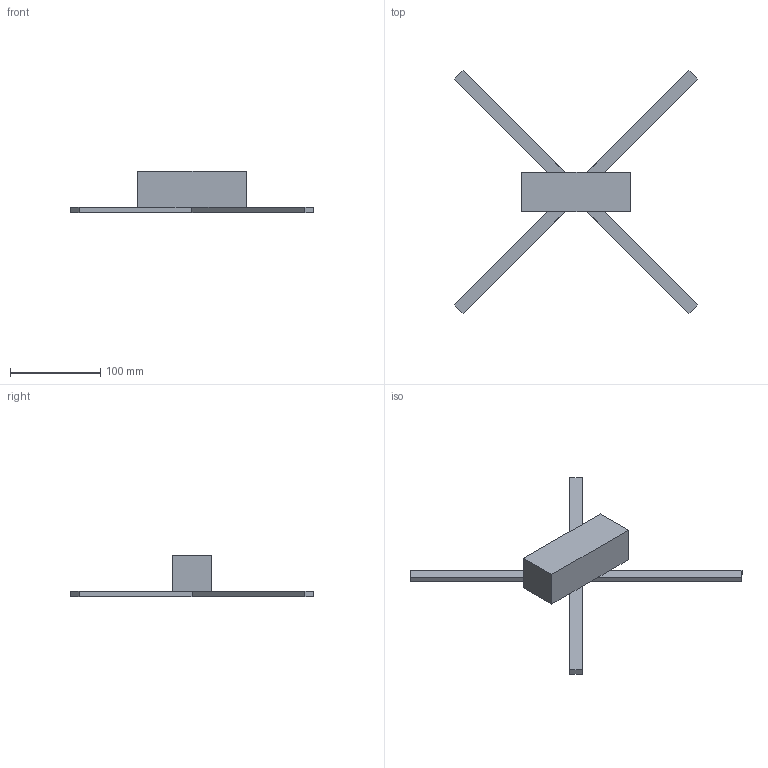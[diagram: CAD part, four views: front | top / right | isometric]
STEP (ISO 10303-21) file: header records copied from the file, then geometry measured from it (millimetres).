
FILE_DESCRIPTION(('FreeCAD Model'),'2;1');
FILE_NAME('Open CASCADE Shape Model','2026-10-22T12:49:28',('FreeCAD'),( 'FreeCAD'),'Open CASCADE STEP processor 8.0','FreeCAD','Unknown');
FILE_SCHEMA(('AUTOMOTIVE_DESIGN { 1 0 10303 214 1 1 1 1 }'));
Length unit declared in the file: millimetre
Products named in the file (1): Open CASCADE STEP translator 8.0 3
Bounding box: 269.41 x 269.41 x 46 mm (x, y, z)
Volume: 271680 mm3; surface area: 49555.4 mm2
Topology: 1 solids, 1 shells, 26 faces, 64 edges, 40 vertices
Faces by surface type: plane 26
Entity records: 754 total; most frequent: CARTESIAN_POINT 131, ORIENTED_EDGE 128, DIRECTION 118, EDGE_CURVE 64, LINE 64, VECTOR 64, VERTEX_POINT 40, AXIS2_PLACEMENT_3D 27
